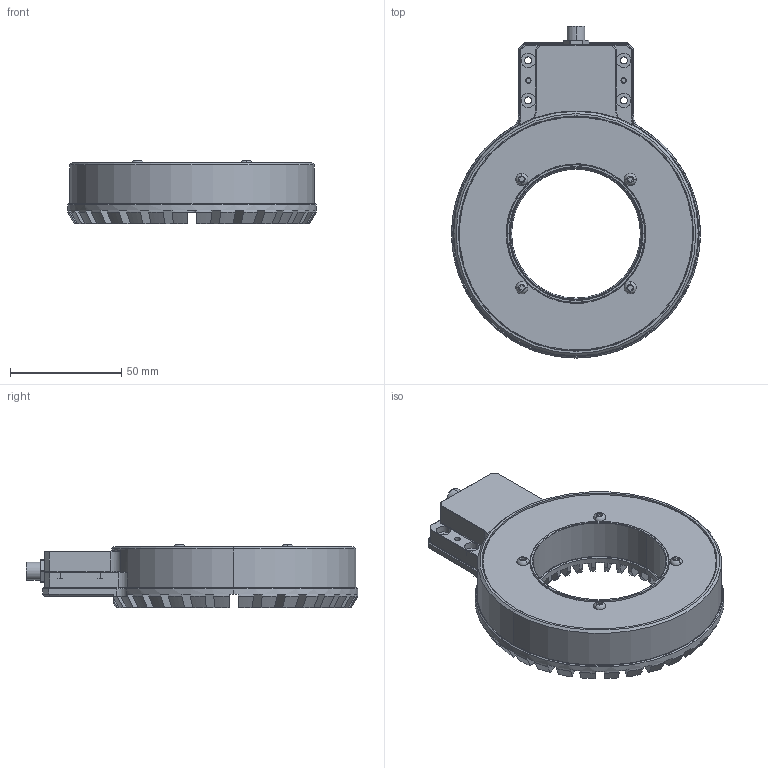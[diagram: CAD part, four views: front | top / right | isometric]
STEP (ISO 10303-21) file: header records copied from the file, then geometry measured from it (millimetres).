
FILE_DESCRIPTION (( 'STEP AP214' ), '1' );
FILE_NAME ('HPRING.STEP', '2012-07-12T09:48:14', ( ' ' ), ( '' ), 'SwSTEP 2.0', 'SolidWorks 2009', '' );
FILE_SCHEMA (( 'AUTOMOTIVE_DESIGN' ));
Length unit declared in the file: millimetre
Products named in the file (1): HPRING
Bounding box: 112 x 149.5 x 28.65 mm (x, y, z)
Volume: 104854.1 mm3; surface area: 80555.4 mm2
Topology: 14 solids, 14 shells, 795 faces, 2064 edges, 1309 vertices
Faces by surface type: plane 363, cylinder 228, cone 169, torus 23, bspline 6, sphere 6
Entity records: 33479 total; most frequent: CARTESIAN_POINT 4786, DIRECTION 4342, ORIENTED_EDGE 4092, EDGE_CURVE 2046, AXIS2_PLACEMENT_3D 1656, VERTEX_POINT 1303, LINE 1030, VECTOR 1030
